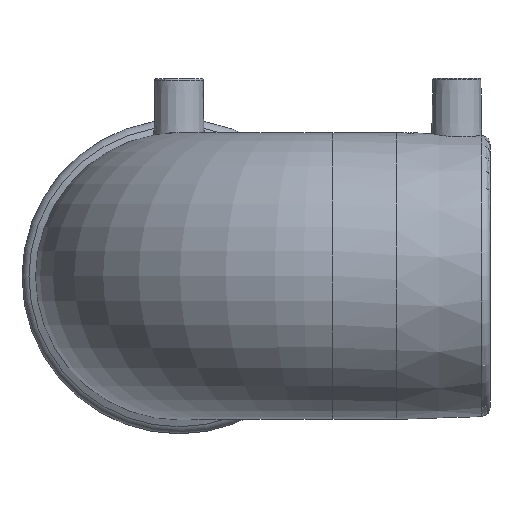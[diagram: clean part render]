
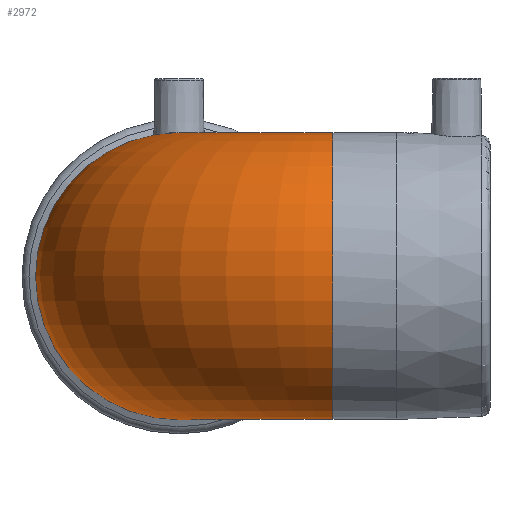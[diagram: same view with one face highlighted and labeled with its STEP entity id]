
A CAD part, top view. The second image highlights one B-rep face of the part: STEP entity #2972.
In plain terms, the highlighted toroidal (fillet/blend) face has major radius 51 mm and minor radius 47.5 mm.
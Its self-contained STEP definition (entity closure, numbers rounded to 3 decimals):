
#544=TOROIDAL_SURFACE('',#3763,51.,47.5);
#566=CIRCLE('',#3753,47.5);
#568=CIRCLE('',#3757,47.5);
#790=ORIENTED_EDGE('',*,*,#1623,.T.);
#791=ORIENTED_EDGE('',*,*,#1621,.F.);
#1621=EDGE_CURVE('',#2043,#2043,#566,.F.);
#1623=EDGE_CURVE('',#2045,#2045,#568,.F.);
#2043=VERTEX_POINT('',#5184);
#2045=VERTEX_POINT('',#5190);
#2405=EDGE_LOOP('',(#790));
#2406=EDGE_LOOP('',(#791));
#2686=FACE_BOUND('',#2405,.T.);
#2687=FACE_BOUND('',#2406,.T.);
#2972=ADVANCED_FACE('',(#2686,#2687),#544,.T.);
#3753=AXIS2_PLACEMENT_3D('',#5183,#4164,#4165);
#3757=AXIS2_PLACEMENT_3D('',#5189,#4172,#4173);
#3763=AXIS2_PLACEMENT_3D('',#5224,#4184,#4185);
#4164=DIRECTION('',(-1.,0.,0.));
#4165=DIRECTION('',(0.,0.,-1.));
#4172=DIRECTION('',(0.,0.,-1.));
#4173=DIRECTION('',(1.,0.,0.));
#4184=DIRECTION('',(0.,1.,0.));
#4185=DIRECTION('',(0.,0.,1.));
#5183=CARTESIAN_POINT('',(51.,0.,103.));
#5184=CARTESIAN_POINT('',(51.,0.,55.5));
#5189=CARTESIAN_POINT('',(0.,0.,52.));
#5190=CARTESIAN_POINT('',(47.5,0.,52.));
#5224=CARTESIAN_POINT('',(51.,0.,52.));
